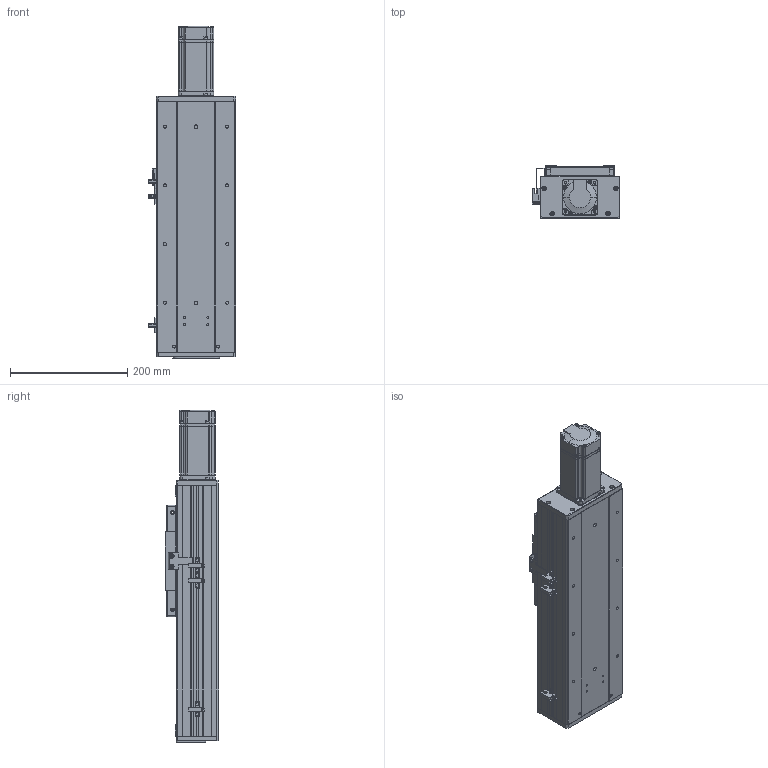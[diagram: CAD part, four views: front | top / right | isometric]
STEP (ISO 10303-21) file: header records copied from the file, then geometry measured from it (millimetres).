
FILE_DESCRIPTION (( 'STEP AP203' ), '1' );
FILE_NAME ('RY140F-L2020-300-MK.SLDASM_150.step', '2021-03-02T06:23:40', ( '盈信电脑' ), ( '东莞市道滘镇水果街19号' ), 'SwSTEP 2.0', 'SolidWorks 2012', '' );
FILE_SCHEMA (( 'CONFIG_CONTROL_DESIGN' ));
Length unit declared in the file: millimetre
Products named in the file (18): 滅袉蝶18-10; RY140F-詩湍揤え; 侐源滅袉蝶; RY140F-L2020-300-MK.SLDASM_150; 侂狟400W侜督萇儂; RY140F-672覜茼んえ; 覜茼ん672; RY140F-直连前盖板(铝件）; 15; RY140F-直连型材铝滑块(16丝杆); RY140F-后盖板(铝件）; RY140F-直连型材铝滑块连接座; RY140F-詩湍幗謫粣; RY140F-滅鳥奻裔; RY100F-詩湍揤踡謫; RY140F-300-MK眻蟀倰第奻裔啣_150; RY140F-300-MK眻蟀倰第菁釱_150; RY140F-300-MK眻蟀詩湍_150
Assembly tree (22 placements, depth 3):
  RY140F-L2020-300-MK.SLDASM_150
    RY140F-300-MK眻蟀倰第菁釱_150
    RY140F-300-MK眻蟀倰第奻裔啣_150  x2
    RY140F-300-MK眻蟀詩湍_150
    RY140F-直连型材铝滑块连接座
    RY140F-滅鳥奻裔
    RY140F-詩湍幗謫粣
    RY100F-詩湍揤踡謫
    RY140F-直连型材铝滑块(16丝杆)
    RY140F-直连前盖板(铝件）
    RY140F-后盖板(铝件）
    侂狟400W侜督萇儂
      15
    覜茼ん672  x3
    RY140F-672覜茼んえ
    RY140F-詩湍揤え  x2
    滅袉蝶18-10
    侐源滅袉蝶  x2
Bounding box: 148.7 x 91 x 565.5 mm (x, y, z)
Volume: 2243124.3 mm3; surface area: 736995.8 mm2
Topology: 21 solids, 21 shells, 1864 faces, 5141 edges, 3318 vertices
Faces by surface type: plane 854, cylinder 834, cone 154, bspline 18, torus 4
Entity records: 54070 total; most frequent: CARTESIAN_POINT 10947, DIRECTION 8744, ORIENTED_EDGE 8478, EDGE_CURVE 4239, AXIS2_PLACEMENT_3D 3103, VERTEX_POINT 2786, LINE 2538, VECTOR 2538
